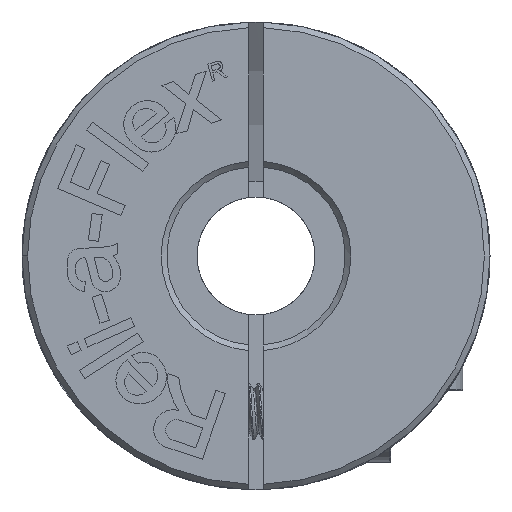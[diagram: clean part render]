
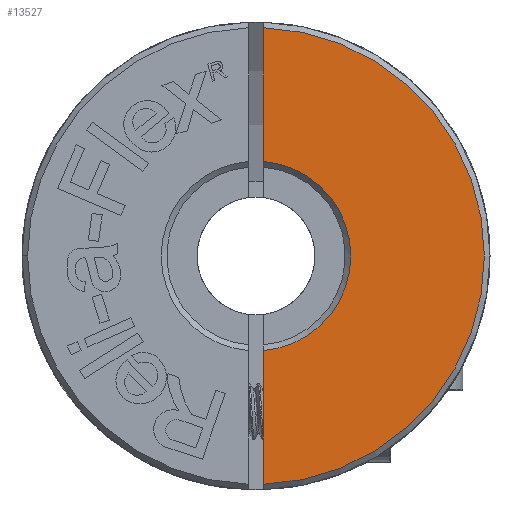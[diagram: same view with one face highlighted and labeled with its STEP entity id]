
A CAD part, front view. The second image highlights one B-rep face of the part: STEP entity #13527.
In plain terms, the highlighted planar face has unit normal (0, -1, 0).
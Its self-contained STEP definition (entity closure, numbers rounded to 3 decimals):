
#1240 = EDGE_LOOP ( 'NONE', ( #7967, #7968, #7969, #7970 ) ) ;
#1423 = VERTEX_POINT ( 'NONE', #9919 ) ;
#1427 = VERTEX_POINT ( 'NONE', #9923 ) ;
#1428 = VERTEX_POINT ( 'NONE', #9924 ) ;
#1430 = VERTEX_POINT ( 'NONE', #9926 ) ;
#2697 = CARTESIAN_POINT ( 'NONE',  ( 0., 0., 0. ) ) ;
#2698 = DIRECTION ( 'NONE',  ( 0., 1., 0. ) ) ;
#2699 = DIRECTION ( 'NONE',  ( 0., 0., -1. ) ) ;
#2753 = LINE ( 'NONE', #2754, #22533 ) ;
#2754 = CARTESIAN_POINT ( 'NONE',  ( 0.4, 0., -7.809 ) ) ;
#2761 = CARTESIAN_POINT ( 'NONE',  ( 0.4, 0., 7.809 ) ) ;
#2762 = DIRECTION ( 'NONE',  ( 0., 0., 1. ) ) ;
#2764 = LINE ( 'NONE', #2761, #22535 ) ;
#2765 = CARTESIAN_POINT ( 'NONE',  ( 0., 0., 0. ) ) ;
#2766 = DIRECTION ( 'NONE',  ( 0., 1., 0. ) ) ;
#2767 = DIRECTION ( 'NONE',  ( -1., 0., 0. ) ) ;
#2768 = DIRECTION ( 'NONE',  ( 0., 0., 1. ) ) ;
#7967 = ORIENTED_EDGE ( 'NONE', *, *, #16639, .F. ) ;
#7968 = ORIENTED_EDGE ( 'NONE', *, *, #16640, .F. ) ;
#7969 = ORIENTED_EDGE ( 'NONE', *, *, #16641, .F. ) ;
#7970 = ORIENTED_EDGE ( 'NONE', *, *, #16618, .T. ) ;
#9919 = CARTESIAN_POINT ( 'NONE',  ( 0.4, 0., 12.193 ) ) ;
#9923 = CARTESIAN_POINT ( 'NONE',  ( 0.4, 0., 5.049 ) ) ;
#9924 = CARTESIAN_POINT ( 'NONE',  ( 0.4, 0., -5.049 ) ) ;
#9926 = CARTESIAN_POINT ( 'NONE',  ( 0.4, 0., -12.193 ) ) ;
#13527 = ADVANCED_FACE ( 'NONE', ( #18016 ), #18017, .T. ) ;
#15749 = AXIS2_PLACEMENT_3D ( 'NONE', #18013, #18020, #18021 ) ;
#16618 = EDGE_CURVE ( 'NONE', #1427, #1428, #22500, .T. ) ;
#16639 = EDGE_CURVE ( 'NONE', #1430, #1428, #2753, .T. ) ;
#16640 = EDGE_CURVE ( 'NONE', #1423, #1430, #22531, .T. ) ;
#16641 = EDGE_CURVE ( 'NONE', #1427, #1423, #2764, .T. ) ;
#18013 = CARTESIAN_POINT ( 'NONE',  ( 0.4, 0., 12.34 ) ) ;
#18016 = FACE_OUTER_BOUND ( 'NONE', #1240, .T. ) ;
#18017 = PLANE ( 'NONE',  #15749 ) ;
#18020 = DIRECTION ( 'NONE',  ( 0., -1., 0. ) ) ;
#18021 = DIRECTION ( 'NONE',  ( 0., 0., -1. ) ) ;
#22500 = CIRCLE ( 'NONE', #22505, 5.065 ) ;
#22505 = AXIS2_PLACEMENT_3D ( 'NONE', #2697, #2698, #2699 ) ;
#22531 = CIRCLE ( 'NONE', #22537, 12.2 ) ;
#22533 = VECTOR ( 'NONE', #2762, 1000. ) ;
#22535 = VECTOR ( 'NONE', #2768, 1000. ) ;
#22537 = AXIS2_PLACEMENT_3D ( 'NONE', #2765, #2766, #2767 ) ;
